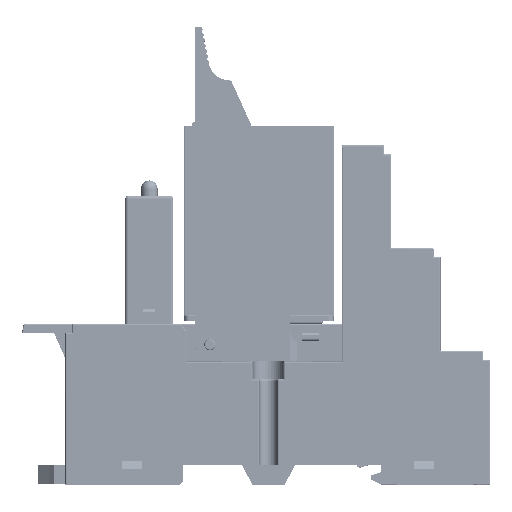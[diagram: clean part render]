
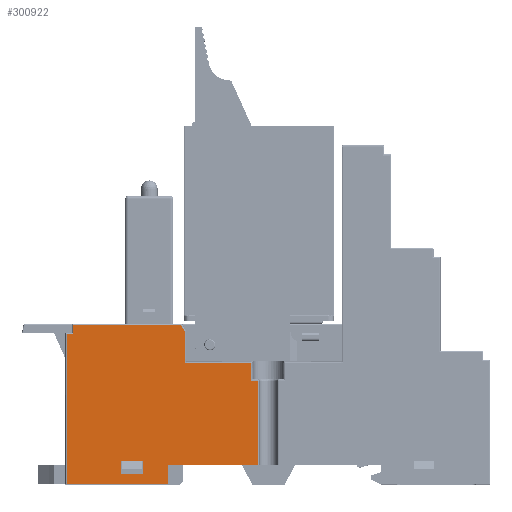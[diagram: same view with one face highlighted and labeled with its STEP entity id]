
A CAD part, top view. The second image highlights one B-rep face of the part: STEP entity #300922.
In plain terms, the highlighted planar face has unit normal (0, 0, 1).
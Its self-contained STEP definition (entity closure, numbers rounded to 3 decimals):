
#174 = EDGE_CURVE ( 'NONE', #30903, #155971, #166075, .T. ) ;
#1840 = ORIENTED_EDGE ( 'NONE', *, *, #279392, .T. ) ;
#3287 = VERTEX_POINT ( 'NONE', #224937 ) ;
#4527 = VECTOR ( 'NONE', #105982, 1000. ) ;
#4944 = CARTESIAN_POINT ( 'NONE',  ( -46.098, -29.682, 13.45 ) ) ;
#8071 = CARTESIAN_POINT ( 'NONE',  ( -54.648, -30.382, 13.45 ) ) ;
#10546 = LINE ( 'NONE', #15027, #252059 ) ;
#12214 = VECTOR ( 'NONE', #214238, 1000. ) ;
#12509 = CARTESIAN_POINT ( 'NONE',  ( -54.648, -29.682, 13.45 ) ) ;
#15027 = CARTESIAN_POINT ( 'NONE',  ( -54.648, -5.232, 13.45 ) ) ;
#16638 = CARTESIAN_POINT ( 'NONE',  ( -46.098, -32.082, 13.45 ) ) ;
#18910 = LINE ( 'NONE', #254971, #153926 ) ;
#20087 = VECTOR ( 'NONE', #196882, 1000. ) ;
#22329 = EDGE_CURVE ( 'NONE', #182660, #179490, #49142, .T. ) ;
#22659 = EDGE_CURVE ( 'NONE', #84756, #115898, #128432, .T. ) ;
#23811 = LINE ( 'NONE', #112731, #129159 ) ;
#24830 = VECTOR ( 'NONE', #171960, 1000. ) ;
#30903 = VERTEX_POINT ( 'NONE', #163656 ) ;
#31712 = CARTESIAN_POINT ( 'NONE',  ( -34.648, -5.232, 13.45 ) ) ;
#32380 = LINE ( 'NONE', #167412, #24830 ) ;
#32719 = CARTESIAN_POINT ( 'NONE',  ( -54.648, -12.032, 13.45 ) ) ;
#34951 = CARTESIAN_POINT ( 'NONE',  ( -55.848, -5.232, 13.45 ) ) ;
#36599 = EDGE_CURVE ( 'NONE', #61041, #84756, #18910, .T. ) ;
#37726 = CARTESIAN_POINT ( 'NONE',  ( -21.498, -15.232, 13.45 ) ) ;
#40027 = DIRECTION ( 'NONE',  ( 1., 0., 0. ) ) ;
#44065 = CARTESIAN_POINT ( 'NONE',  ( -55.848, -33.882, 13.45 ) ) ;
#45769 = CARTESIAN_POINT ( 'NONE',  ( -54.648, -5.232, 13.45 ) ) ;
#45908 = EDGE_CURVE ( 'NONE', #66227, #124615, #172076, .T. ) ;
#49142 = LINE ( 'NONE', #213178, #63771 ) ;
#50211 = LINE ( 'NONE', #31712, #262279 ) ;
#55004 = DIRECTION ( 'NONE',  ( 0., 1., 0. ) ) ;
#57273 = EDGE_CURVE ( 'NONE', #124615, #3287, #237289, .T. ) ;
#60184 = ORIENTED_EDGE ( 'NONE', *, *, #212708, .T. ) ;
#61041 = VERTEX_POINT ( 'NONE', #87821 ) ;
#62431 = DIRECTION ( 'NONE',  ( 1., 0., 0. ) ) ;
#63771 = VECTOR ( 'NONE', #236200, 1000. ) ;
#66227 = VERTEX_POINT ( 'NONE', #4944 ) ;
#67391 = LINE ( 'NONE', #160973, #78926 ) ;
#73883 = VECTOR ( 'NONE', #177498, 1000. ) ;
#78926 = VECTOR ( 'NONE', #254513, 1000. ) ;
#84756 = VERTEX_POINT ( 'NONE', #90794 ) ;
#86597 = DIRECTION ( 'NONE',  ( 0., 1., 0. ) ) ;
#87821 = CARTESIAN_POINT ( 'NONE',  ( -54.648, -6.832, 13.45 ) ) ;
#89562 = CARTESIAN_POINT ( 'NONE',  ( -22.648, -15.232, 13.45 ) ) ;
#89732 = VERTEX_POINT ( 'NONE', #206357 ) ;
#89764 = CARTESIAN_POINT ( 'NONE',  ( -35.25, -5.232, 13.45 ) ) ;
#90345 = VERTEX_POINT ( 'NONE', #241909 ) ;
#90794 = CARTESIAN_POINT ( 'NONE',  ( -55.848, -6.832, 13.45 ) ) ;
#92218 = ORIENTED_EDGE ( 'NONE', *, *, #174, .T. ) ;
#97798 = VECTOR ( 'NONE', #40027, 1000. ) ;
#97842 = ORIENTED_EDGE ( 'NONE', *, *, #22329, .T. ) ;
#103262 = EDGE_CURVE ( 'NONE', #139224, #104520, #271975, .T. ) ;
#104520 = VERTEX_POINT ( 'NONE', #45769 ) ;
#104830 = VERTEX_POINT ( 'NONE', #200339 ) ;
#105982 = DIRECTION ( 'NONE',  ( 1., 0., 0. ) ) ;
#106912 = PLANE ( 'NONE',  #207895 ) ;
#111483 = FACE_BOUND ( 'NONE', #205193, .T. ) ;
#112731 = CARTESIAN_POINT ( 'NONE',  ( -37.698, -5.232, 13.45 ) ) ;
#114696 = LINE ( 'NONE', #208217, #12214 ) ;
#115898 = VERTEX_POINT ( 'NONE', #44065 ) ;
#119243 = DIRECTION ( 'NONE',  ( 0., -1., 0. ) ) ;
#120080 = DIRECTION ( 'NONE',  ( 1., 0., 0. ) ) ;
#121143 = VECTOR ( 'NONE', #120080, 1000. ) ;
#121598 = EDGE_CURVE ( 'NONE', #89732, #30903, #23811, .T. ) ;
#124615 = VERTEX_POINT ( 'NONE', #228323 ) ;
#125252 = DIRECTION ( 'NONE',  ( 0., 1., 0. ) ) ;
#126284 = ORIENTED_EDGE ( 'NONE', *, *, #145031, .T. ) ;
#128408 = EDGE_CURVE ( 'NONE', #3287, #197490, #32380, .T. ) ;
#128432 = LINE ( 'NONE', #34951, #73883 ) ;
#129159 = VECTOR ( 'NONE', #86597, 1000. ) ;
#130656 = CARTESIAN_POINT ( 'NONE',  ( -21.498, -30.382, 13.45 ) ) ;
#139224 = VERTEX_POINT ( 'NONE', #89764 ) ;
#145031 = EDGE_CURVE ( 'NONE', #115898, #89732, #302175, .T. ) ;
#145213 = CARTESIAN_POINT ( 'NONE',  ( -54.648, -5.232, 13.45 ) ) ;
#153926 = VECTOR ( 'NONE', #210468, 1000. ) ;
#154370 = ORIENTED_EDGE ( 'NONE', *, *, #128408, .T. ) ;
#155971 = VERTEX_POINT ( 'NONE', #130656 ) ;
#156004 = DIRECTION ( 'NONE',  ( 0., -1., 0. ) ) ;
#157494 = FACE_OUTER_BOUND ( 'NONE', #273157, .T. ) ;
#160929 = ORIENTED_EDGE ( 'NONE', *, *, #226920, .T. ) ;
#160973 = CARTESIAN_POINT ( 'NONE',  ( -34.648, -6.396, 13.45 ) ) ;
#163656 = CARTESIAN_POINT ( 'NONE',  ( -37.698, -30.382, 13.45 ) ) ;
#163770 = VECTOR ( 'NONE', #289393, 1000. ) ;
#166075 = LINE ( 'NONE', #8071, #121143 ) ;
#167412 = CARTESIAN_POINT ( 'NONE',  ( -54.648, -32.082, 13.45 ) ) ;
#171960 = DIRECTION ( 'NONE',  ( -1., 0., 0. ) ) ;
#172076 = LINE ( 'NONE', #12509, #4527 ) ;
#177498 = DIRECTION ( 'NONE',  ( 0., -1., 0. ) ) ;
#179490 = VERTEX_POINT ( 'NONE', #89562 ) ;
#182660 = VERTEX_POINT ( 'NONE', #37726 ) ;
#191702 = VECTOR ( 'NONE', #119243, 1000. ) ;
#192377 = ORIENTED_EDGE ( 'NONE', *, *, #36599, .T. ) ;
#196882 = DIRECTION ( 'NONE',  ( 0., 1., 0. ) ) ;
#197490 = VERTEX_POINT ( 'NONE', #16638 ) ;
#198284 = ORIENTED_EDGE ( 'NONE', *, *, #217666, .T. ) ;
#200339 = CARTESIAN_POINT ( 'NONE',  ( -34.648, -6.396, 13.45 ) ) ;
#202334 = ORIENTED_EDGE ( 'NONE', *, *, #57273, .T. ) ;
#203461 = VECTOR ( 'NONE', #55004, 1000. ) ;
#205193 = EDGE_LOOP ( 'NONE', ( #220412, #284017, #202334, #154370 ) ) ;
#205725 = VECTOR ( 'NONE', #265816, 1000. ) ;
#206357 = CARTESIAN_POINT ( 'NONE',  ( -37.698, -33.882, 13.45 ) ) ;
#207895 = AXIS2_PLACEMENT_3D ( 'NONE', #271075, #295547, #62431 ) ;
#208217 = CARTESIAN_POINT ( 'NONE',  ( -21.498, -5.232, 13.45 ) ) ;
#210468 = DIRECTION ( 'NONE',  ( -1., 0., 0. ) ) ;
#212059 = ORIENTED_EDGE ( 'NONE', *, *, #221260, .T. ) ;
#212573 = VERTEX_POINT ( 'NONE', #263964 ) ;
#212708 = EDGE_CURVE ( 'NONE', #104830, #139224, #67391, .T. ) ;
#213178 = CARTESIAN_POINT ( 'NONE',  ( -54.648, -15.232, 13.45 ) ) ;
#214238 = DIRECTION ( 'NONE',  ( 0., 1., 0. ) ) ;
#217666 = EDGE_CURVE ( 'NONE', #179490, #212573, #242953, .T. ) ;
#218948 = ORIENTED_EDGE ( 'NONE', *, *, #103262, .T. ) ;
#220412 = ORIENTED_EDGE ( 'NONE', *, *, #301860, .T. ) ;
#221260 = EDGE_CURVE ( 'NONE', #90345, #104830, #50211, .T. ) ;
#224937 = CARTESIAN_POINT ( 'NONE',  ( -42.098, -32.082, 13.45 ) ) ;
#226044 = ORIENTED_EDGE ( 'NONE', *, *, #22659, .T. ) ;
#226920 = EDGE_CURVE ( 'NONE', #155971, #182660, #114696, .T. ) ;
#228323 = CARTESIAN_POINT ( 'NONE',  ( -42.098, -29.682, 13.45 ) ) ;
#236200 = DIRECTION ( 'NONE',  ( -1., 0., 0. ) ) ;
#237289 = LINE ( 'NONE', #258793, #191702 ) ;
#241413 = CARTESIAN_POINT ( 'NONE',  ( -22.648, -5.232, 13.45 ) ) ;
#241909 = CARTESIAN_POINT ( 'NONE',  ( -34.648, -12.032, 13.45 ) ) ;
#242953 = LINE ( 'NONE', #241413, #20087 ) ;
#250151 = CARTESIAN_POINT ( 'NONE',  ( -54.648, -33.882, 13.45 ) ) ;
#250820 = ORIENTED_EDGE ( 'NONE', *, *, #121598, .T. ) ;
#252059 = VECTOR ( 'NONE', #156004, 1000. ) ;
#253743 = EDGE_CURVE ( 'NONE', #104520, #61041, #10546, .T. ) ;
#254513 = DIRECTION ( 'NONE',  ( -0.459, 0.888, 0. ) ) ;
#254971 = CARTESIAN_POINT ( 'NONE',  ( -54.648, -6.832, 13.45 ) ) ;
#258793 = CARTESIAN_POINT ( 'NONE',  ( -42.098, -5.232, 13.45 ) ) ;
#262279 = VECTOR ( 'NONE', #125252, 1000. ) ;
#263964 = CARTESIAN_POINT ( 'NONE',  ( -22.648, -12.032, 13.45 ) ) ;
#265101 = CARTESIAN_POINT ( 'NONE',  ( -46.098, -5.232, 13.45 ) ) ;
#265816 = DIRECTION ( 'NONE',  ( -1., 0., 0. ) ) ;
#271075 = CARTESIAN_POINT ( 'NONE',  ( -54.648, -5.232, 13.45 ) ) ;
#271975 = LINE ( 'NONE', #145213, #163770 ) ;
#273157 = EDGE_LOOP ( 'NONE', ( #126284, #250820, #92218, #160929, #97842, #198284, #1840, #212059, #60184, #218948, #303239, #192377, #226044 ) ) ;
#279392 = EDGE_CURVE ( 'NONE', #212573, #90345, #288843, .T. ) ;
#284017 = ORIENTED_EDGE ( 'NONE', *, *, #45908, .T. ) ;
#288128 = LINE ( 'NONE', #265101, #203461 ) ;
#288843 = LINE ( 'NONE', #32719, #205725 ) ;
#289393 = DIRECTION ( 'NONE',  ( -1., 0., 0. ) ) ;
#295547 = DIRECTION ( 'NONE',  ( 0., 0., 1. ) ) ;
#300922 = ADVANCED_FACE ( 'NONE', ( #111483, #157494 ), #106912, .T. ) ;
#301860 = EDGE_CURVE ( 'NONE', #197490, #66227, #288128, .T. ) ;
#302175 = LINE ( 'NONE', #250151, #97798 ) ;
#303239 = ORIENTED_EDGE ( 'NONE', *, *, #253743, .T. ) ;
